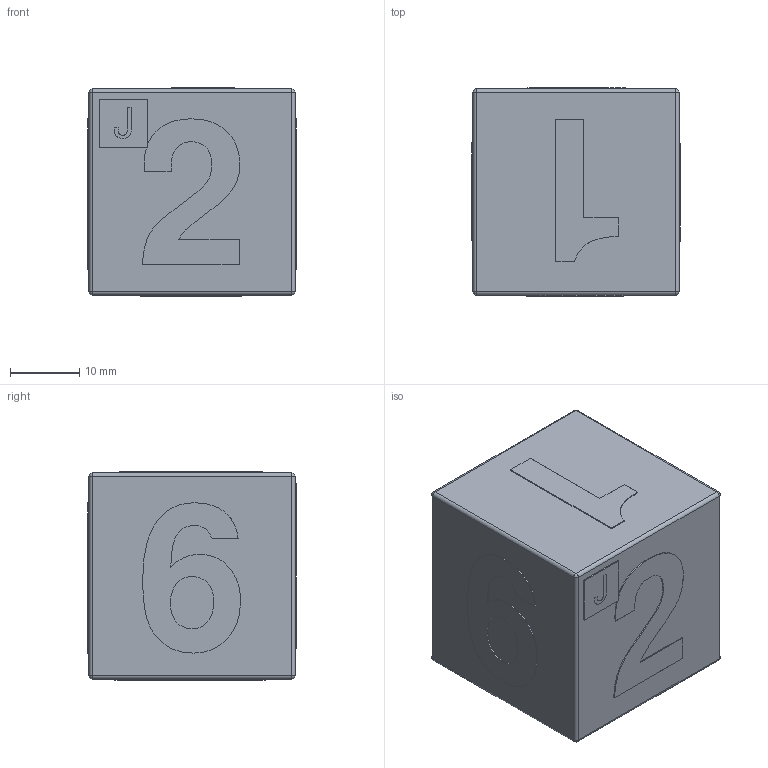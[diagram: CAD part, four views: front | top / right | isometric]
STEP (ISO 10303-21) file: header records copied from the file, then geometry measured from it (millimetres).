
FILE_DESCRIPTION(('Open CASCADE Model'),'2;1');
FILE_NAME('Open CASCADE Shape Model','2025-09-14T20:47:14',('Author'),( 'Open CASCADE'),'Open CASCADE STEP processor 7.8','Open CASCADE 7.8' ,'Unknown');
FILE_SCHEMA(('AUTOMOTIVE_DESIGN { 1 0 10303 214 1 1 1 1 }'));
Length unit declared in the file: millimetre
Products named in the file (20): 9c7f8424-91a3-11f0-88d2-1c1b0deae66b; 9c7f85be-91a3-11f0-88d2-1c1b0deae66b; 9c7f85be-91a3-11f0-88d2-1c1b0deae66b_part; 9c88994c-91a3-11f0-88d2-1c1b0deae66b; 9c88994c-91a3-11f0-88d2-1c1b0deae66b_part; 9c8a910c-91a3-11f0-88d2-1c1b0deae66b; 9c8a910c-91a3-11f0-88d2-1c1b0deae66b_part; 9c8c78d2-91a3-11f0-88d2-1c1b0deae66b; 9c8c78d2-91a3-11f0-88d2-1c1b0deae66b_part; 9c8e44fa-91a3-11f0-88d2-1c1b0deae66b; 9c8e44fa-91a3-11f0-88d2-1c1b0deae66b_part; 9c8f5bce-91a3-11f0-88d2-1c1b0deae66b; 9c8f5bce-91a3-11f0-88d2-1c1b0deae66b_part; 9c911ee6-91a3-11f0-88d2-1c1b0deae66b; 9c911ee6-91a3-11f0-88d2-1c1b0deae66b_part; 9c99bb5a-91a3-11f0-88d2-1c1b0deae66b; 9c99bb5a-91a3-11f0-88d2-1c1b0deae66b_part; 9c99bcea-91a3-11f0-88d2-1c1b0deae66b; 9c99bcea-91a3-11f0-88d2-1c1b0deae66b_part
Assembly tree (19 placements, depth 4):
  9c7f8424-91a3-11f0-88d2-1c1b0deae66b
    9c7f8424-91a3-11f0-88d2-1c1b0deae66b
      9c7f85be-91a3-11f0-88d2-1c1b0deae66b
        9c7f85be-91a3-11f0-88d2-1c1b0deae66b_part
      9c88994c-91a3-11f0-88d2-1c1b0deae66b
        9c88994c-91a3-11f0-88d2-1c1b0deae66b_part
      9c8a910c-91a3-11f0-88d2-1c1b0deae66b
        9c8a910c-91a3-11f0-88d2-1c1b0deae66b_part
      9c8c78d2-91a3-11f0-88d2-1c1b0deae66b
        9c8c78d2-91a3-11f0-88d2-1c1b0deae66b_part
      9c8e44fa-91a3-11f0-88d2-1c1b0deae66b
        9c8e44fa-91a3-11f0-88d2-1c1b0deae66b_part
      9c8f5bce-91a3-11f0-88d2-1c1b0deae66b
        9c8f5bce-91a3-11f0-88d2-1c1b0deae66b_part
      9c911ee6-91a3-11f0-88d2-1c1b0deae66b
        9c911ee6-91a3-11f0-88d2-1c1b0deae66b_part
      9c99bb5a-91a3-11f0-88d2-1c1b0deae66b
        9c99bb5a-91a3-11f0-88d2-1c1b0deae66b_part
      9c99bcea-91a3-11f0-88d2-1c1b0deae66b
        9c99bcea-91a3-11f0-88d2-1c1b0deae66b_part
Bounding box: 30 x 30 x 30 mm (x, y, z)
Volume: 26336.1 mm3; surface area: 7402.6 mm2
Topology: 9 solids, 9 shells, 244 faces, 662 edges, 428 vertices
Faces by surface type: extrusion 155, plane 69, cylinder 12, sphere 8
Entity records: 16695 total; most frequent: CARTESIAN_POINT 4278, DIRECTION 1701, VECTOR 1435, ORIENTED_EDGE 1308, PCURVE 1308, DEFINITIONAL_REPRESENTATION 1308, LINE 1280, B_SPLINE_CURVE_WITH_KNOTS 813
